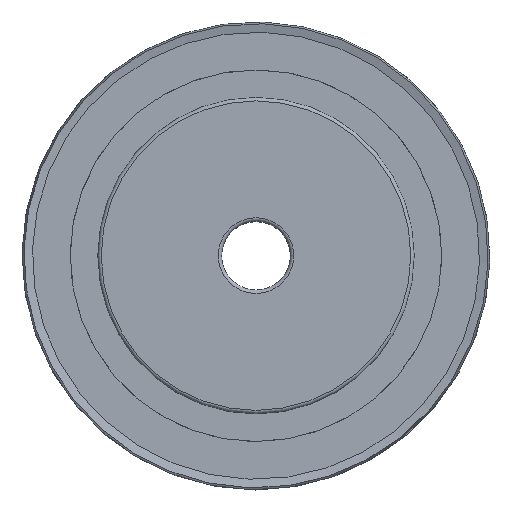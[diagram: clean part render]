
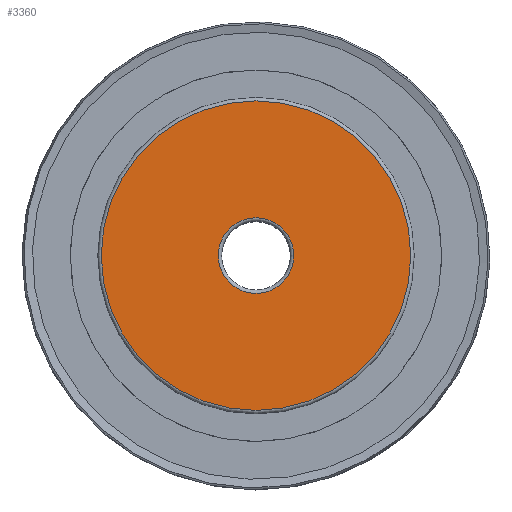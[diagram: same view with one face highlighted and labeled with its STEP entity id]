
A CAD part, top view. The second image highlights one B-rep face of the part: STEP entity #3360.
In plain terms, the highlighted planar face has unit normal (0, 0, 1).
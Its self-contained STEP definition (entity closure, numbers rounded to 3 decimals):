
#623=PLANE('',#3554);
#806=FACE_BOUND('',#1015,.T.);
#824=FACE_OUTER_BOUND('',#1014,.T.);
#1014=EDGE_LOOP('',(#2319));
#1015=EDGE_LOOP('',(#2320));
#1214=CIRCLE('',#3553,5.5);
#1215=CIRCLE('',#3555,22.5);
#1441=VERTEX_POINT('',#5108);
#1442=VERTEX_POINT('',#5111);
#1794=EDGE_CURVE('',#1441,#1441,#1214,.T.);
#1795=EDGE_CURVE('',#1442,#1442,#1215,.T.);
#2319=ORIENTED_EDGE('',*,*,#1795,.F.);
#2320=ORIENTED_EDGE('',*,*,#1794,.F.);
#3360=ADVANCED_FACE('',(#824,#806),#623,.T.);
#3553=AXIS2_PLACEMENT_3D('',#5109,#3981,#3982);
#3554=AXIS2_PLACEMENT_3D('',#5110,#3983,#3984);
#3555=AXIS2_PLACEMENT_3D('',#5112,#3985,#3986);
#3981=DIRECTION('center_axis',(0.,0.,1.));
#3982=DIRECTION('ref_axis',(-1.,0.,0.));
#3983=DIRECTION('center_axis',(0.,0.,1.));
#3984=DIRECTION('ref_axis',(1.,0.,0.));
#3985=DIRECTION('center_axis',(0.,0.,-1.));
#3986=DIRECTION('ref_axis',(-1.,0.,0.));
#5108=CARTESIAN_POINT('',(5.5,0.,26.));
#5109=CARTESIAN_POINT('Origin',(0.,0.,26.));
#5110=CARTESIAN_POINT('Origin',(0.,0.,
26.));
#5111=CARTESIAN_POINT('',(22.5,0.,26.));
#5112=CARTESIAN_POINT('Origin',(0.,0.,26.));
